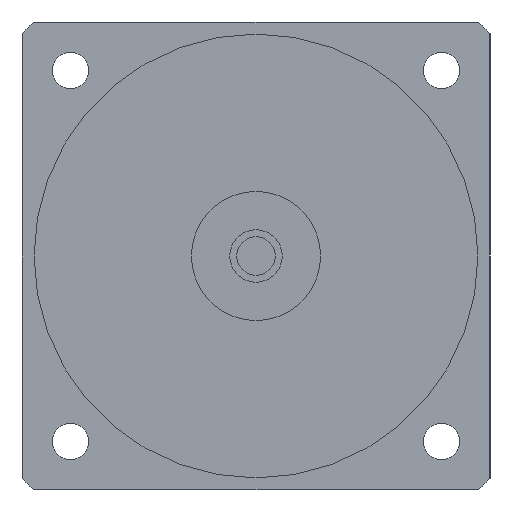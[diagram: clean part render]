
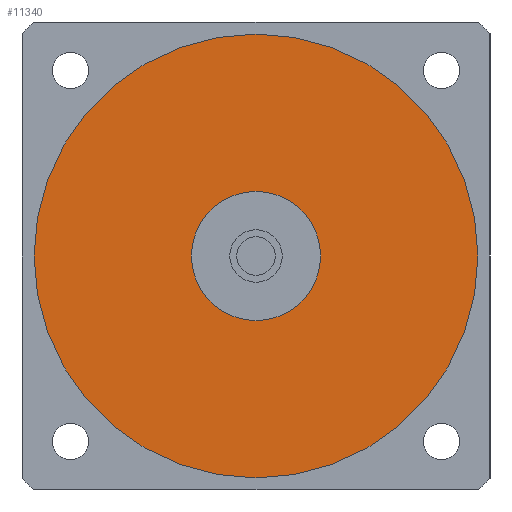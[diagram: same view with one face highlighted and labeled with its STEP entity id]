
A CAD part, left-side view. The second image highlights one B-rep face of the part: STEP entity #11340.
In plain terms, the highlighted planar face has unit normal (-1, 0, 0) as drawn and (0, 0, -1) by its records, which use the part's own axes.
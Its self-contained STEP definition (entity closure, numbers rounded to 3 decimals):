
#10680=CARTESIAN_POINT('',(-16.,0.,-32.5));
#10690=VERTEX_POINT('',#10680);
#10740=CARTESIAN_POINT('',(0.,0.,
-32.5));
#10750=DIRECTION('',(0.,0.,1.));
#10760=DIRECTION('',(0.,1.,0.));
#10770=AXIS2_PLACEMENT_3D('',#10740,#10750,#10760);
#10780=CIRCLE('',#10770,16.);
#10790=CARTESIAN_POINT('',(16.,0.,-32.5));
#10800=VERTEX_POINT('',#10790);
#10810=EDGE_CURVE('',#10690,#10800,#10780,.T.);
#11010=CARTESIAN_POINT('',(0.,0.,
-32.5));
#11020=DIRECTION('',(0.,0.,1.));
#11030=DIRECTION('',(-1.,0.,0.));
#11040=AXIS2_PLACEMENT_3D('',#11010,#11020,#11030);
#11050=PLANE('',#11040);
#11060=CARTESIAN_POINT('',(0.,0.,
-32.5));
#11070=DIRECTION('',(0.,0.,1.));
#11080=DIRECTION('',(0.,1.,0.));
#11090=AXIS2_PLACEMENT_3D('',#11060,#11070,#11080);
#11100=CIRCLE('',#11090,55.);
#11110=CARTESIAN_POINT('',(0.,55.,-32.5));
#11120=VERTEX_POINT('',#11110);
#11130=CARTESIAN_POINT('',(-55.,0.,-32.5));
#11140=VERTEX_POINT('',#11130);
#11150=EDGE_CURVE('',#11120,#11140,#11100,.T.);
#11160=ORIENTED_EDGE('',*,*,#11150,.F.);
#11170=CARTESIAN_POINT('',(55.,0.,-32.5));
#11180=VERTEX_POINT('',#11170);
#11190=EDGE_CURVE('',#11140,#11180,#11100,.T.);
#11200=ORIENTED_EDGE('',*,*,#11190,.F.);
#11210=EDGE_CURVE('',#11180,#11120,#11100,.T.);
#11220=ORIENTED_EDGE('',*,*,#11210,.F.);
#11230=EDGE_LOOP('',(#11220,#11200,#11160));
#11240=FACE_OUTER_BOUND('',#11230,.T.);
#11250=ORIENTED_EDGE('',*,*,#10810,.T.);
#11260=CARTESIAN_POINT('',(0.,16.,-32.5));
#11270=VERTEX_POINT('',#11260);
#11280=EDGE_CURVE('',#11270,#10690,#10780,.T.);
#11290=ORIENTED_EDGE('',*,*,#11280,.T.);
#11300=EDGE_CURVE('',#10800,#11270,#10780,.T.);
#11310=ORIENTED_EDGE('',*,*,#11300,.T.);
#11320=EDGE_LOOP('',(#11310,#11290,#11250));
#11330=FACE_BOUND('',#11320,.T.);
#11340=ADVANCED_FACE('',(#11240,#11330),#11050,.F.);
